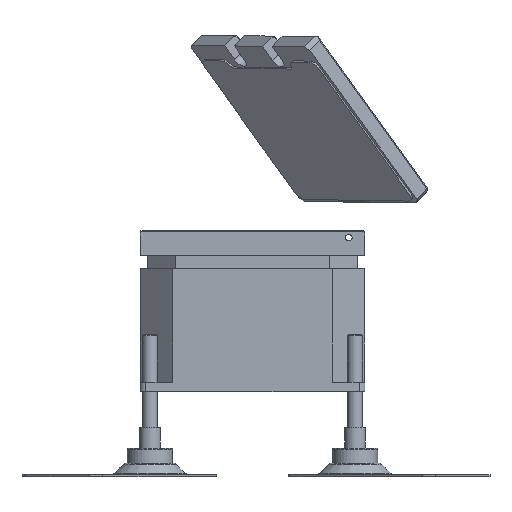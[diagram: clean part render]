
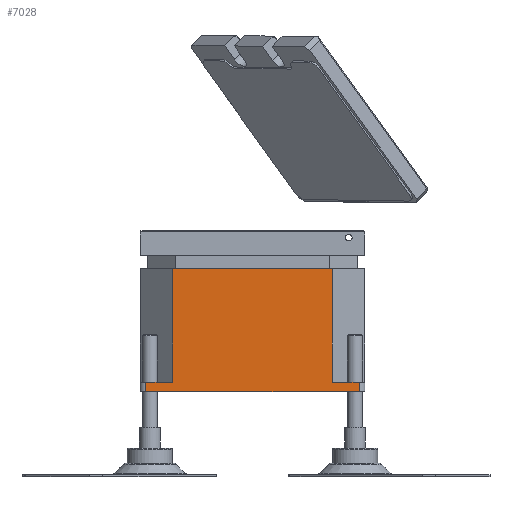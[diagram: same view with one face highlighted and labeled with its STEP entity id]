
A CAD part, left-side view. The second image highlights one B-rep face of the part: STEP entity #7028.
In plain terms, the highlighted planar face has unit normal (-1, 0, 0).
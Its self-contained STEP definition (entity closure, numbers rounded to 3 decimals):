
#779=FACE_OUTER_BOUND('',#1200,.T.);
#1200=EDGE_LOOP('',(#5075,#5076,#5077,#5078,#5079,#5080,#5081,#5082));
#1621=LINE('',#10517,#2297);
#1630=LINE('',#10572,#2306);
#1632=LINE('',#10578,#2308);
#1639=LINE('',#10593,#2315);
#1698=LINE('',#10758,#2374);
#1707=LINE('',#10775,#2383);
#1708=LINE('',#10777,#2384);
#1709=LINE('',#10781,#2385);
#2297=VECTOR('',#8437,10.);
#2306=VECTOR('',#8488,10.);
#2308=VECTOR('',#8494,10.);
#2315=VECTOR('',#8505,10.);
#2374=VECTOR('',#8676,10.);
#2383=VECTOR('',#8697,10.);
#2384=VECTOR('',#8700,10.);
#2385=VECTOR('',#8707,10.);
#2976=VERTEX_POINT('',#10514);
#2977=VERTEX_POINT('',#10516);
#3002=VERTEX_POINT('',#10570);
#3003=VERTEX_POINT('',#10574);
#3010=VERTEX_POINT('',#10592);
#3059=VERTEX_POINT('',#10755);
#3060=VERTEX_POINT('',#10757);
#3062=VERTEX_POINT('',#10773);
#3687=EDGE_CURVE('',#2976,#2977,#1621,.T.);
#3715=EDGE_CURVE('',#3002,#2976,#1630,.T.);
#3718=EDGE_CURVE('',#2977,#3003,#1632,.T.);
#3725=EDGE_CURVE('',#3010,#3003,#1639,.T.);
#3806=EDGE_CURVE('',#3060,#3059,#1698,.T.);
#3815=EDGE_CURVE('',#3002,#3062,#1707,.T.);
#3816=EDGE_CURVE('',#3062,#3060,#1708,.T.);
#3817=EDGE_CURVE('',#3059,#3010,#1709,.T.);
#5075=ORIENTED_EDGE('',*,*,#3715,.F.);
#5076=ORIENTED_EDGE('',*,*,#3815,.T.);
#5077=ORIENTED_EDGE('',*,*,#3816,.T.);
#5078=ORIENTED_EDGE('',*,*,#3806,.T.);
#5079=ORIENTED_EDGE('',*,*,#3817,.T.);
#5080=ORIENTED_EDGE('',*,*,#3725,.T.);
#5081=ORIENTED_EDGE('',*,*,#3718,.F.);
#5082=ORIENTED_EDGE('',*,*,#3687,.F.);
#6748=PLANE('',#7704);
#7028=ADVANCED_FACE('',(#779),#6748,.T.);
#7704=AXIS2_PLACEMENT_3D('',#10782,#8708,#8709);
#8437=DIRECTION('',(0.,1.,0.));
#8488=DIRECTION('',(0.,0.,-1.));
#8494=DIRECTION('',(0.,0.,1.));
#8505=DIRECTION('',(0.,1.,0.));
#8676=DIRECTION('',(0.,1.,0.));
#8697=DIRECTION('',(0.,1.,0.));
#8700=DIRECTION('',(0.,0.,1.));
#8707=DIRECTION('',(0.,0.,-1.));
#8708=DIRECTION('center_axis',(-1.,0.,0.));
#8709=DIRECTION('ref_axis',(0.,-1.,0.));
#10514=CARTESIAN_POINT('',(-59.5,-56.5,0.));
#10516=CARTESIAN_POINT('',(-59.5,56.5,0.));
#10517=CARTESIAN_POINT('',(-59.5,-59.5,0.));
#10570=CARTESIAN_POINT('',(-59.5,-56.5,5.));
#10572=CARTESIAN_POINT('',(-59.5,-56.5,0.));
#10574=CARTESIAN_POINT('',(-59.5,56.5,5.));
#10578=CARTESIAN_POINT('',(-59.5,56.5,0.));
#10592=CARTESIAN_POINT('',(-59.5,42.323,5.));
#10593=CARTESIAN_POINT('',(-59.5,29.75,5.));
#10755=CARTESIAN_POINT('',(-59.5,42.323,65.));
#10757=CARTESIAN_POINT('',(-59.5,-42.323,65.));
#10758=CARTESIAN_POINT('',(-59.5,29.75,65.));
#10773=CARTESIAN_POINT('',(-59.5,-42.323,5.));
#10775=CARTESIAN_POINT('',(-59.5,29.75,5.));
#10777=CARTESIAN_POINT('',(-59.5,-42.323,0.));
#10781=CARTESIAN_POINT('',(-59.5,42.323,0.));
#10782=CARTESIAN_POINT('Origin',(-59.5,59.5,0.));
